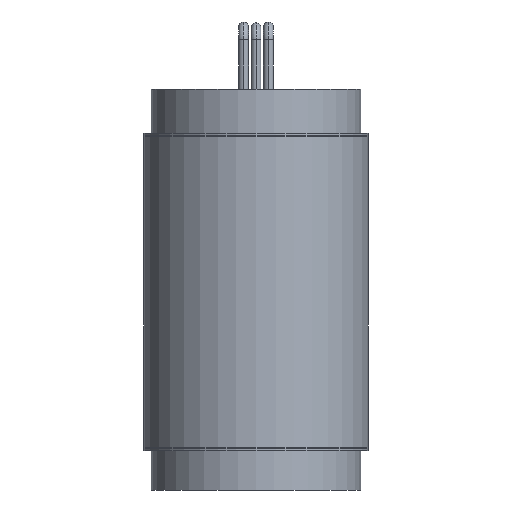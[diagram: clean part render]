
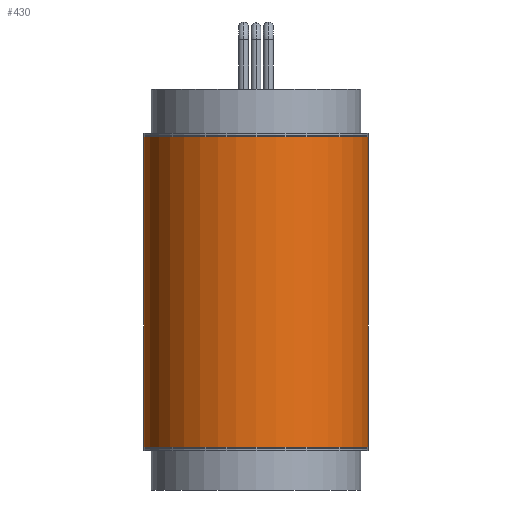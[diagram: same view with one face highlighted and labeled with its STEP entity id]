
A CAD part, front view. The second image highlights one B-rep face of the part: STEP entity #430.
In plain terms, the highlighted cylindrical face has radius 22.86 mm (diameter 45.72 mm), a partial arc.
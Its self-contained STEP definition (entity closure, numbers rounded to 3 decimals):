
#27 = EDGE_LOOP ( 'NONE', ( #1275, #851, #708, #453 ) ) ;
#40 = DIRECTION ( 'NONE',  ( 0., 0., -1. ) ) ;
#54 = EDGE_CURVE ( 'NONE', #369, #385, #127, .T. ) ;
#60 = AXIS2_PLACEMENT_3D ( 'NONE', #893, #911, #1557 ) ;
#67 = CARTESIAN_POINT ( 'NONE',  ( 22.86, 0., -31.572 ) ) ;
#87 = DIRECTION ( 'NONE',  ( 1., 0., 0. ) ) ;
#127 = LINE ( 'NONE', #449, #905 ) ;
#291 = LINE ( 'NONE', #1858, #1150 ) ;
#299 = AXIS2_PLACEMENT_3D ( 'NONE', #1371, #1546, #87 ) ;
#369 = VERTEX_POINT ( 'NONE', #702 ) ;
#385 = VERTEX_POINT ( 'NONE', #67 ) ;
#410 = EDGE_CURVE ( 'NONE', #790, #385, #1026, .T. ) ;
#430 = ADVANCED_FACE ( 'NONE', ( #1203 ), #1809, .T. ) ;
#449 = CARTESIAN_POINT ( 'NONE',  ( 22.86, 0., 31.572 ) ) ;
#453 = ORIENTED_EDGE ( 'NONE', *, *, #410, .T. ) ;
#657 = VERTEX_POINT ( 'NONE', #1679 ) ;
#702 = CARTESIAN_POINT ( 'NONE',  ( 22.86, 0., 31.572 ) ) ;
#708 = ORIENTED_EDGE ( 'NONE', *, *, #744, .T. ) ;
#727 = CARTESIAN_POINT ( 'NONE',  ( 0., 0., 31.572 ) ) ;
#744 = EDGE_CURVE ( 'NONE', #657, #790, #291, .T. ) ;
#790 = VERTEX_POINT ( 'NONE', #1368 ) ;
#851 = ORIENTED_EDGE ( 'NONE', *, *, #2001, .F. ) ;
#893 = CARTESIAN_POINT ( 'NONE',  ( 0., 0., -31.572 ) ) ;
#905 = VECTOR ( 'NONE', #1094, 1000. ) ;
#911 = DIRECTION ( 'NONE',  ( 0., 0., 1. ) ) ;
#1026 = CIRCLE ( 'NONE', #60, 22.86 ) ;
#1094 = DIRECTION ( 'NONE',  ( 0., 0., -1. ) ) ;
#1111 = CIRCLE ( 'NONE', #299, 22.86 ) ;
#1150 = VECTOR ( 'NONE', #40, 1000. ) ;
#1203 = FACE_OUTER_BOUND ( 'NONE', #27, .T. ) ;
#1222 = DIRECTION ( 'NONE',  ( -1., 0., 0. ) ) ;
#1268 = AXIS2_PLACEMENT_3D ( 'NONE', #727, #1739, #1222 ) ;
#1275 = ORIENTED_EDGE ( 'NONE', *, *, #54, .F. ) ;
#1368 = CARTESIAN_POINT ( 'NONE',  ( -22.86, 0., -31.572 ) ) ;
#1371 = CARTESIAN_POINT ( 'NONE',  ( 0., 0., 31.572 ) ) ;
#1546 = DIRECTION ( 'NONE',  ( 0., 0., 1. ) ) ;
#1557 = DIRECTION ( 'NONE',  ( 1., 0., 0. ) ) ;
#1679 = CARTESIAN_POINT ( 'NONE',  ( -22.86, 0., 31.572 ) ) ;
#1739 = DIRECTION ( 'NONE',  ( 0., 0., -1. ) ) ;
#1809 = CYLINDRICAL_SURFACE ( 'NONE', #1268, 22.86 ) ;
#1858 = CARTESIAN_POINT ( 'NONE',  ( -22.86, 0., 31.572 ) ) ;
#2001 = EDGE_CURVE ( 'NONE', #657, #369, #1111, .T. ) ;
